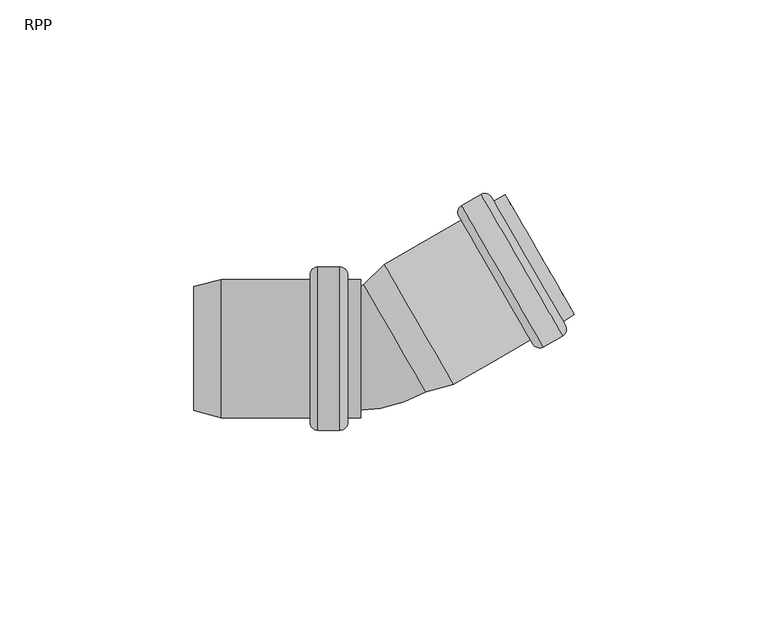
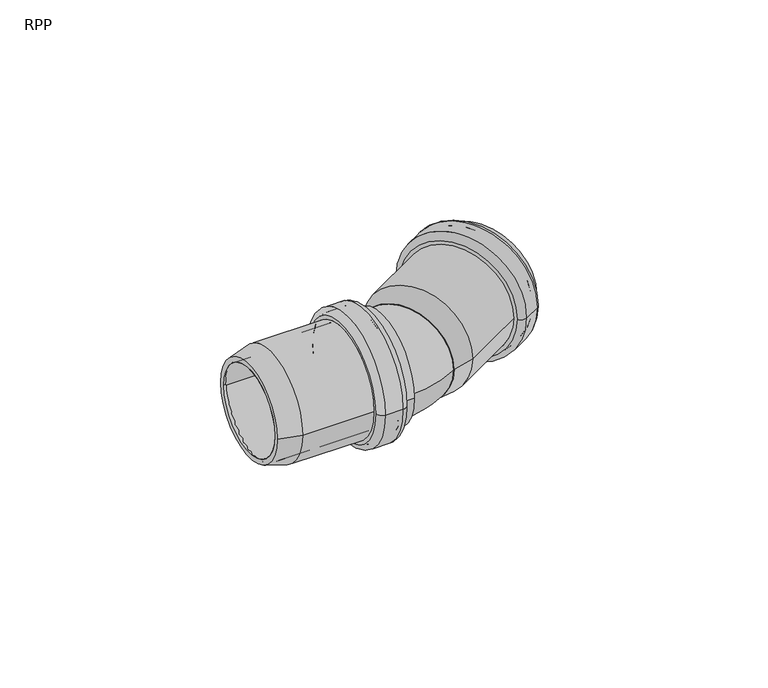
"""IFC4 building model written with IfcOpenShell, lengths in millimetres: pipe fitting geometry, RAUPIANO PLUS Bend : RPP."""

from ifc_helpers import new_model, si_unit, point, frame, origin, place, context, project, spatial, polyline, circle_curve, ellipse_curve, trimmed, source, transform, mapped, element, save
from ifc_brep_helpers import plane_surface, cylinder_surface, revolved_surface, advanced_brep


def rpp_2c8e5e39(model_context):
    return source(origin(), model_context, "Body", "AdvancedBrep", [
        advanced_brep(
        [(-15.6589838, -16.3, 0.0), (-15.6589838, 16.3, 0.0), (-40.0574433, 16.3, 0.0), (-40.0574433, -16.3, 0.0), (-15.1589838, -19.5, 0.0), (-15.1589838, 19.5, 0.0), (-15.6589838, 19.0, 0.0), (-15.6589838, -19.0, 0.0), (-9.6589838, -19.5, 0.0), (-9.6589838, 19.5, 0.0), (-9.1589838, -19.0, 0.0), (-9.1589838, 19.0, 0.0), (-4.1589838, -16.3, 0.0), (-4.1589838, 16.3, 0.0), (-9.1589838, 16.3, 0.0), (-9.1589838, -16.3, 0.0), (-7.5589838, -17.9, 0.0), (-7.5589838, 17.9, 0.0), (-4.1589838, 17.9, 0.0), (-4.1589838, -17.9, 0.0), (-9.5589838, -21.1, 0.0), (-9.5589838, 21.1, 0.0), (-7.5589838, 19.1, 0.0), (-7.5589838, -19.1, 0.0), (-15.2589838, -21.1, 0.0), (-15.2589838, 21.1, 0.0), (-17.2589838, -19.1, 0.0), (-17.2589838, 19.1, 0.0), (-40.2680873, -17.9, 0.0), (-40.2680873, 17.9, 0.0), (-17.2589838, 17.9, 0.0), (-17.2589838, -17.9, 0.0), (-47.3589838, -16.0, 0.0), (-47.3589838, 16.0, 0.0), (-47.3589838, 14.3435581, 0.0), (-47.3589838, -14.3435581, 0.0)],
        [
            (0, 1, circle_curve(frame((-15.6589838, 0.0, 0.0), z_axis=(1.0, 0.0, 0.0), x_axis=(0.0, 1.0, 0.0)), 16.3)),
            (1, 2),
            (2, 3, circle_curve(frame((-40.0574433, 0.0, 0.0), z_axis=(-1.0, 0.0, 0.0), x_axis=(0.0, 1.0, 0.0)), 16.3)),
            (3, 0),
            (4, 5, circle_curve(frame((-15.1589838, 0.0, 0.0), z_axis=(1.0, 0.0, 0.0), x_axis=(0.0, 1.0, 0.0)), 19.5)),
            (5, 6, circle_curve(frame((-15.1589838, 19.0, 0.0), z_axis=(0.0, 0.0, 1.0), x_axis=(0.0, -1.0, 0.0)), 0.5)),
            (6, 7, circle_curve(frame((-15.6589838, 0.0, 0.0), z_axis=(-1.0, 0.0, 0.0), x_axis=(0.0, 1.0, 0.0)), 19.0)),
            (7, 4, circle_curve(frame((-15.1589838, -19.0, 0.0), z_axis=(0.0, 0.0, 1.0), x_axis=(0.0, 1.0, 0.0)), 0.5)),
            (8, 9, circle_curve(frame((-9.6589838, 0.0, 0.0), z_axis=(1.0, 0.0, 0.0), x_axis=(0.0, 1.0, 0.0)), 19.5)),
            (9, 5),
            (4, 8),
            (10, 11, circle_curve(frame((-9.1589838, 0.0, 0.0), z_axis=(1.0, 0.0, 0.0), x_axis=(0.0, 1.0, 0.0)), 19.0)),
            (11, 9, circle_curve(frame((-9.6589838, 19.0, 0.0), z_axis=(0.0, 0.0, 1.0), x_axis=(0.0, -1.0, 0.0)), 0.5)),
            (8, 10, circle_curve(frame((-9.6589838, -19.0, 0.0), z_axis=(0.0, 0.0, 1.0), x_axis=(0.0, 1.0, 0.0)), 0.5)),
            (12, 13, circle_curve(frame((-4.1589838, 0.0, 0.0), z_axis=(1.0, 0.0, 0.0), x_axis=(0.0, 1.0, 0.0)), 16.3)),
            (13, 14),
            (14, 15, circle_curve(frame((-9.1589838, 0.0, 0.0), z_axis=(-1.0, 0.0, 0.0), x_axis=(0.0, 1.0, 0.0)), 16.3)),
            (15, 12),
            (16, 17, circle_curve(frame((-7.5589838, 0.0, 0.0), z_axis=(1.0, 0.0, 0.0), x_axis=(0.0, 1.0, 0.0)), 17.9)),
            (17, 18),
            (18, 19, circle_curve(frame((-4.1589838, 0.0, 0.0), z_axis=(-1.0, 0.0, 0.0), x_axis=(0.0, 1.0, 0.0)), 17.9)),
            (19, 16),
            (20, 21, circle_curve(frame((-9.5589838, 0.0, 0.0), z_axis=(1.0, 0.0, 0.0), x_axis=(0.0, 1.0, 0.0)), 21.1)),
            (21, 22, circle_curve(frame((-9.5589838, 19.1, 0.0), z_axis=(0.0, 0.0, -1.0), x_axis=(0.0, -1.0, 0.0)), 2.0)),
            (22, 23, circle_curve(frame((-7.5589838, 0.0, 0.0), z_axis=(-1.0, 0.0, 0.0), x_axis=(0.0, 1.0, 0.0)), 19.1)),
            (23, 20, circle_curve(frame((-9.5589838, -19.1, 0.0), z_axis=(0.0, 0.0, -1.0), x_axis=(0.0, 1.0, 0.0)), 2.0)),
            (24, 25, circle_curve(frame((-15.2589838, 0.0, 0.0), z_axis=(1.0, 0.0, 0.0), x_axis=(0.0, 1.0, 0.0)), 21.1)),
            (25, 21),
            (20, 24),
            (26, 27, circle_curve(frame((-17.2589838, 0.0, 0.0), z_axis=(1.0, 0.0, 0.0), x_axis=(0.0, 1.0, 0.0)), 19.1)),
            (27, 25, circle_curve(frame((-15.2589838, 19.1, 0.0), z_axis=(0.0, 0.0, -1.0), x_axis=(0.0, -1.0, 0.0)), 2.0)),
            (24, 26, circle_curve(frame((-15.2589838, -19.1, 0.0), z_axis=(0.0, 0.0, -1.0), x_axis=(0.0, 1.0, 0.0)), 2.0)),
            (28, 29, circle_curve(frame((-40.2680873, 0.0, 0.0), z_axis=(1.0, 0.0, 0.0), x_axis=(0.0, 1.0, 0.0)), 17.9)),
            (29, 30),
            (30, 31, circle_curve(frame((-17.2589838, 0.0, 0.0), z_axis=(-1.0, 0.0, 0.0), x_axis=(0.0, 1.0, 0.0)), 17.9)),
            (31, 28),
            (32, 33, circle_curve(frame((-47.3589838, 0.0, 0.0), z_axis=(1.0, 0.0, 0.0), x_axis=(0.0, 1.0, 0.0)), 16.0)),
            (33, 29),
            (28, 32),
            (2, 34),
            (34, 35, circle_curve(frame((-47.3589838, 0.0, 0.0), z_axis=(-1.0, 0.0, 0.0), x_axis=(0.0, 1.0, 0.0)), 14.3435581)),
            (35, 3),
            (1, 0, circle_curve(frame((-15.6589838, 0.0, 0.0), z_axis=(1.0, 0.0, 0.0), x_axis=(0.0, -1.0, 0.0)), 16.3)),
            (3, 2, circle_curve(frame((-40.0574433, 0.0, 0.0), z_axis=(-1.0, 0.0, 0.0), x_axis=(0.0, -1.0, 0.0)), 16.3)),
            (6, 7, circle_curve(frame((-15.6589838, 0.0, 0.0), z_axis=(1.0, 0.0, 0.0), x_axis=(0.0, -1.0, 0.0)), 19.0)),
            (5, 4, circle_curve(frame((-15.1589838, 0.0, 0.0), z_axis=(1.0, 0.0, 0.0), x_axis=(0.0, -1.0, 0.0)), 19.5)),
            (9, 8, circle_curve(frame((-9.6589838, 0.0, 0.0), z_axis=(1.0, 0.0, 0.0), x_axis=(0.0, -1.0, 0.0)), 19.5)),
            (11, 10, circle_curve(frame((-9.1589838, 0.0, 0.0), z_axis=(1.0, 0.0, 0.0), x_axis=(0.0, -1.0, 0.0)), 19.0)),
            (14, 15, circle_curve(frame((-9.1589838, 0.0, 0.0), z_axis=(1.0, 0.0, 0.0), x_axis=(0.0, -1.0, 0.0)), 16.3)),
            (13, 12, circle_curve(frame((-4.1589838, 0.0, 0.0), z_axis=(1.0, 0.0, 0.0), x_axis=(0.0, -1.0, 0.0)), 16.3)),
            (18, 19, circle_curve(frame((-4.1589838, 0.0, 0.0), z_axis=(1.0, 0.0, 0.0), x_axis=(0.0, -1.0, 0.0)), 17.9)),
            (17, 16, circle_curve(frame((-7.5589838, 0.0, 0.0), z_axis=(1.0, 0.0, 0.0), x_axis=(0.0, -1.0, 0.0)), 17.9)),
            (22, 23, circle_curve(frame((-7.5589838, 0.0, 0.0), z_axis=(1.0, 0.0, 0.0), x_axis=(0.0, -1.0, 0.0)), 19.1)),
            (21, 20, circle_curve(frame((-9.5589838, 0.0, 0.0), z_axis=(1.0, 0.0, 0.0), x_axis=(0.0, -1.0, 0.0)), 21.1)),
            (25, 24, circle_curve(frame((-15.2589838, 0.0, 0.0), z_axis=(1.0, 0.0, 0.0), x_axis=(0.0, -1.0, 0.0)), 21.1)),
            (27, 26, circle_curve(frame((-17.2589838, 0.0, 0.0), z_axis=(1.0, 0.0, 0.0), x_axis=(0.0, -1.0, 0.0)), 19.1)),
            (30, 31, circle_curve(frame((-17.2589838, 0.0, 0.0), z_axis=(1.0, 0.0, 0.0), x_axis=(0.0, -1.0, 0.0)), 17.9)),
            (29, 28, circle_curve(frame((-40.2680873, 0.0, 0.0), z_axis=(1.0, 0.0, 0.0), x_axis=(0.0, -1.0, 0.0)), 17.9)),
            (33, 32, circle_curve(frame((-47.3589838, 0.0, 0.0), z_axis=(1.0, 0.0, 0.0), x_axis=(0.0, -1.0, 0.0)), 16.0)),
            (34, 35, circle_curve(frame((-47.3589838, 0.0, 0.0), z_axis=(1.0, 0.0, 0.0), x_axis=(0.0, -1.0, 0.0)), 14.3435581)),
        ],
        [
            revolved_surface(polyline([(-40.0574433, 16.3, 0.0), (-15.658983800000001, 16.3, 0.0)]), (-47.3589838, 0.0, 0.0), (-1.0, 0.0, 0.0)),
            revolved_surface(trimmed(ellipse_curve(frame((-15.1589838, 19.0, 0.0), z_axis=(0.0, 0.0, -1.0), x_axis=(0.0, -1.0, 0.0)), 0.5, 0.5), [point((-15.6589838, 19.0, 0.0))], [point((-15.1589838, 19.5, 0.0))], True, "CARTESIAN"), (-47.3589838, 0.0, 0.0), (-1.0, 0.0, 0.0)),
            revolved_surface(polyline([(-15.158983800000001, 19.5, 0.0), (-9.658983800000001, 19.5, 0.0)]), (-47.3589838, 0.0, 0.0), (-1.0, 0.0, 0.0)),
            revolved_surface(trimmed(ellipse_curve(frame((-9.6589838, 19.0, 0.0), z_axis=(0.0, 0.0, -1.0), x_axis=(0.0, -1.0, 0.0)), 0.5, 0.5), [point((-9.6589838, 19.5, 0.0))], [point((-9.1589838, 19.0, 0.0))], True, "CARTESIAN"), (-47.3589838, 0.0, 0.0), (-1.0, 0.0, 0.0)),
            revolved_surface(polyline([(-9.158983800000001, 16.3, 0.0), (-4.1589838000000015, 16.3, 0.0)]), (-47.3589838, 0.0, 0.0), (-1.0, 0.0, 0.0)),
            cylinder_surface(frame((-47.3589838, 0.0, 0.0), z_axis=(-1.0, 0.0, 0.0), x_axis=(0.0, 1.0, 0.0)), 17.9),
            revolved_surface(trimmed(ellipse_curve(frame((-9.5589838, 19.1, 0.0), z_axis=(0.0, 0.0, 1.0), x_axis=(0.0, -1.0, 0.0)), 2.0, 2.0), [point((-7.5589838, 19.1, 0.0))], [point((-9.5589838, 21.1, 0.0))], True, "CARTESIAN"), (-47.3589838, 0.0, 0.0), (-1.0, 0.0, 0.0)),
            cylinder_surface(frame((-47.3589838, 0.0, 0.0), z_axis=(-1.0, 0.0, 0.0), x_axis=(0.0, 1.0, 0.0)), 21.1),
            revolved_surface(trimmed(ellipse_curve(frame((-15.2589838, 19.1, 0.0), z_axis=(0.0, 0.0, 1.0), x_axis=(0.0, -1.0, 0.0)), 2.0, 2.0), [point((-15.2589838, 21.1, 0.0))], [point((-17.2589838, 19.1, 0.0))], True, "CARTESIAN"), (-47.3589838, 0.0, 0.0), (-1.0, 0.0, 0.0)),
            revolved_surface(polyline([(-40.2680873, 17.9, 0.0), (-47.3589838, 16.0, 0.0)]), (-47.3589838, 0.0, 0.0), (-1.0, 0.0, 0.0)),
            revolved_surface(polyline([(-47.3589838, 14.3435581, 0.0), (-40.0574433, 16.3, 0.0)]), (-47.3589838, 0.0, 0.0), (-1.0, 0.0, 0.0)),
            revolved_surface(polyline([(-40.0574433, -16.3, 0.0), (-15.658983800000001, -16.3, 0.0)]), (-47.3589838, 0.0, 0.0), (-1.0, 0.0, 0.0)),
            plane_surface(frame((-15.6589838, 0.0, 0.0), z_axis=(1.0, 0.0, 0.0), x_axis=(0.0, -1.0, 0.0))),
            revolved_surface(trimmed(ellipse_curve(frame((-15.1589838, -19.0, 0.0), z_axis=(0.0, 0.0, 1.0), x_axis=(0.0, 1.0, 0.0)), 0.5, 0.5), [point((-15.6589838, -19.0, 0.0))], [point((-15.1589838, -19.5, 0.0))], True, "CARTESIAN"), (-47.3589838, 0.0, 0.0), (-1.0, 0.0, 0.0)),
            revolved_surface(polyline([(-15.158983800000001, -19.5, 0.0), (-9.658983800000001, -19.5, 0.0)]), (-47.3589838, 0.0, 0.0), (-1.0, 0.0, 0.0)),
            revolved_surface(trimmed(ellipse_curve(frame((-9.6589838, -19.0, 0.0), z_axis=(0.0, 0.0, 1.0), x_axis=(0.0, 1.0, 0.0)), 0.5, 0.5), [point((-9.6589838, -19.5, 0.0))], [point((-9.1589838, -19.0, 0.0))], True, "CARTESIAN"), (-47.3589838, 0.0, 0.0), (-1.0, 0.0, 0.0)),
            plane_surface(frame((-9.1589838, 0.0, 0.0), z_axis=(-1.0, 0.0, 0.0), x_axis=(0.0, -1.0, 0.0))),
            revolved_surface(polyline([(-9.158983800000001, -16.3, 0.0), (-4.1589838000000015, -16.3, 0.0)]), (-47.3589838, 0.0, 0.0), (-1.0, 0.0, 0.0)),
            plane_surface(frame((-4.1589838, 0.0, 0.0), z_axis=(1.0, 0.0, 0.0), x_axis=(0.0, -1.0, 0.0))),
            cylinder_surface(frame((-47.3589838, 0.0, 0.0), z_axis=(-1.0, 0.0, 0.0), x_axis=(0.0, -1.0, 0.0)), 17.9),
            plane_surface(frame((-7.5589838, 0.0, 0.0), z_axis=(1.0, 0.0, 0.0), x_axis=(0.0, -1.0, 0.0))),
            revolved_surface(trimmed(ellipse_curve(frame((-9.5589838, -19.1, 0.0), z_axis=(0.0, 0.0, -1.0), x_axis=(0.0, 1.0, 0.0)), 2.0, 2.0), [point((-7.5589838, -19.1, 0.0))], [point((-9.5589838, -21.1, 0.0))], True, "CARTESIAN"), (-47.3589838, 0.0, 0.0), (-1.0, 0.0, 0.0)),
            cylinder_surface(frame((-47.3589838, 0.0, 0.0), z_axis=(-1.0, 0.0, 0.0), x_axis=(0.0, -1.0, 0.0)), 21.1),
            revolved_surface(trimmed(ellipse_curve(frame((-15.2589838, -19.1, 0.0), z_axis=(0.0, 0.0, -1.0), x_axis=(0.0, 1.0, 0.0)), 2.0, 2.0), [point((-15.2589838, -21.1, 0.0))], [point((-17.2589838, -19.1, 0.0))], True, "CARTESIAN"), (-47.3589838, 0.0, 0.0), (-1.0, 0.0, 0.0)),
            plane_surface(frame((-17.2589838, 0.0, 0.0), z_axis=(-1.0, 0.0, 0.0), x_axis=(0.0, -1.0, 0.0))),
            revolved_surface(polyline([(-40.2680873, -17.9, 0.0), (-47.3589838, -16.0, 0.0)]), (-47.3589838, 0.0, 0.0), (-1.0, 0.0, 0.0)),
            plane_surface(frame((-47.3589838, 0.0, 0.0), z_axis=(-1.0, 0.0, 0.0), x_axis=(0.0, -1.0, 0.0))),
            revolved_surface(polyline([(-47.3589838, -14.3435581, 0.0), (-40.0574433, -16.3, 0.0)]), (-47.3589838, 0.0, 0.0), (-1.0, 0.0, 0.0)),
        ],
        [
            (0, [[1, 2, 3, 4]]),
            (1, [[5, 6, 7, 8]]),
            (2, [[9, 10, -5, 11]]),
            (3, [[12, 13, -9, 14]]),
            (4, [[15, 16, 17, 18]]),
            (5, [[19, 20, 21, 22]]),
            (6, [[23, 24, 25, 26]]),
            (7, [[27, 28, -23, 29]]),
            (8, [[30, 31, -27, 32]]),
            (5, [[33, 34, 35, 36]]),
            (9, [[37, 38, -33, 39]]),
            (10, [[-3, 40, 41, 42]]),
            (11, [[43, -4, 44, -2]]),
            (12, [[45, -7], [-43, -1]]),
            (13, [[46, -8, -45, -6]]),
            (14, [[47, -11, -46, -10]]),
            (15, [[48, -14, -47, -13]]),
            (16, [[-48, -12], [49, -17]]),
            (17, [[50, -18, -49, -16]]),
            (18, [[51, -21], [-50, -15]]),
            (19, [[52, -22, -51, -20]]),
            (20, [[53, -25], [-52, -19]]),
            (21, [[54, -26, -53, -24]]),
            (22, [[55, -29, -54, -28]]),
            (23, [[56, -32, -55, -31]]),
            (24, [[-56, -30], [57, -35]]),
            (19, [[58, -36, -57, -34]]),
            (25, [[59, -39, -58, -38]]),
            (26, [[-59, -37], [60, -41]]),
            (27, [[-44, -42, -60, -40]]),
        ],
    ),
        advanced_brep(
        [(11.8127952, -9.7423938, 0.0), (-2.5307629, 15.1013776, 0.0), (2.8143357, 20.4464763, 0.0), (19.1143357, -7.7859519, 0.0), (19.7319127, -9.2769145, 0.0), (1.8319127, 21.7267949, 0.0), (-3.3589838, 16.5358984, 0.0), (12.6410162, -11.1769145, 0.0), (39.6583808, 2.2276372, 0.0), (21.7583808, 33.2313467, 0.0), (47.9267764, 3.3063559, 0.0), (26.8267764, 39.8526279, 0.0), (21.8904316, 37.0026279, 0.0), (42.9904316, 0.4563559, 0.0), (51.0033136, 8.7776372, 0.0), (33.1033136, 39.7813467, 0.0), (30.1588272, 38.0813467, 0.0), (48.0588272, 7.0776372, 0.0), (45.8731866, 7.6632778, 0.0), (29.5731866, 35.895706, 0.0), (33.9033136, 38.395706, 0.0), (50.2033136, 10.1632778, 0.0), (42.2770342, 1.8919966, 0.0), (22.7770342, 35.6669873, 0.0), (27.5401739, 38.4169873, 0.0), (47.0401739, 4.6419966, 0.0), (23.9440215, 32.645706, 0.0), (40.2440215, 4.4132778, 0.0), (21.1583808, 34.2705771, 0.0), (40.2583808, 1.1884067, 0.0), (48.6588272, 6.0384067, 0.0), (29.5588272, 39.1205771, 0.0), (28.2231866, 38.2339746, 0.0), (47.2231866, 5.3250093, 0.0), (41.5940215, 2.0750093, 0.0), (22.5940215, 34.9839746, 0.0)],
        [
            (0, 1, circle_curve(frame((4.6410162, 2.6794919, 0.0), z_axis=(-0.8660254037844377, -0.5000000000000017, 0.0), x_axis=(-0.5000000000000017, 0.8660254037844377, 0.0)), 14.3435581)),
            (1, 2),
            (2, 3, circle_curve(frame((10.9643357, 6.3302622, 0.0), z_axis=(0.8660254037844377, 0.5000000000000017, 0.0), x_axis=(-0.5000000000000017, 0.8660254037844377, 0.0)), 16.3)),
            (3, 0),
            (4, 5, circle_curve(frame((10.7819127, 6.2249402, 0.0), z_axis=(-0.8660254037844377, -0.5000000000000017, 0.0), x_axis=(-0.5000000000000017, 0.8660254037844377, 0.0)), 17.9)),
            (5, 6),
            (6, 7, circle_curve(frame((4.6410162, 2.6794919, 0.0), z_axis=(0.8660254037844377, 0.5000000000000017, 0.0), x_axis=(-0.5000000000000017, 0.8660254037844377, 0.0)), 16.0)),
            (7, 4),
            (8, 9, circle_curve(frame((30.7083808, 17.7294919, 0.0), z_axis=(-0.8660254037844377, -0.5000000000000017, 0.0), x_axis=(-0.5000000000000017, 0.8660254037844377, 0.0)), 17.9)),
            (9, 5),
            (4, 8),
            (10, 11, circle_curve(frame((37.3767764, 21.5794919, 0.0), z_axis=(-0.8660254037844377, -0.5000000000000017, 0.0), x_axis=(-0.5000000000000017, 0.8660254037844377, 0.0)), 21.1)),
            (11, 12),
            (12, 13, circle_curve(frame((32.4404316, 18.7294919, 0.0), z_axis=(0.8660254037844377, 0.5000000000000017, 0.0), x_axis=(-0.5000000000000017, 0.8660254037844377, 0.0)), 21.1)),
            (13, 10),
            (14, 15, circle_curve(frame((42.0533136, 24.2794919, 0.0), z_axis=(-0.8660254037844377, -0.5000000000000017, 0.0), x_axis=(-0.5000000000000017, 0.8660254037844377, 0.0)), 17.9)),
            (15, 16),
            (16, 17, circle_curve(frame((39.1088272, 22.5794919, 0.0), z_axis=(0.8660254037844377, 0.5000000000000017, 0.0), x_axis=(-0.5000000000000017, 0.8660254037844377, 0.0)), 17.9)),
            (17, 14),
            (18, 19, circle_curve(frame((37.7231866, 21.7794919, 0.0), z_axis=(-0.8660254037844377, -0.5000000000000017, 0.0), x_axis=(-0.5000000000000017, 0.8660254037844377, 0.0)), 16.3)),
            (19, 20),
            (20, 21, circle_curve(frame((42.0533136, 24.2794919, 0.0), z_axis=(0.8660254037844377, 0.5000000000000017, 0.0), x_axis=(-0.5000000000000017, 0.8660254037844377, 0.0)), 16.3)),
            (21, 18),
            (22, 23, circle_curve(frame((32.5270342, 18.7794919, 0.0), z_axis=(-0.8660254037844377, -0.5000000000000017, 0.0), x_axis=(-0.5000000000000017, 0.8660254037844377, 0.0)), 19.5)),
            (23, 24),
            (24, 25, circle_curve(frame((37.2901739, 21.5294919, 0.0), z_axis=(0.8660254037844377, 0.5000000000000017, 0.0), x_axis=(-0.5000000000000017, 0.8660254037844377, 0.0)), 19.5)),
            (25, 22),
            (2, 26),
            (26, 27, circle_curve(frame((32.0940215, 18.5294919, 0.0), z_axis=(0.8660254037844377, 0.5000000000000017, 0.0), x_axis=(-0.5000000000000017, 0.8660254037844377, 0.0)), 16.3)),
            (27, 3),
            (1, 0, circle_curve(frame((4.6410162, 2.6794919, 0.0), z_axis=(-0.8660254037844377, -0.5000000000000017, 0.0), x_axis=(0.5000000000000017, -0.8660254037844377, 0.0)), 14.3435581)),
            (3, 2, circle_curve(frame((10.9643357, 6.3302622, 0.0), z_axis=(0.8660254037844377, 0.5000000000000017, 0.0), x_axis=(0.5000000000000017, -0.8660254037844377, 0.0)), 16.3)),
            (6, 7, circle_curve(frame((4.6410162, 2.6794919, 0.0), z_axis=(-0.8660254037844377, -0.5000000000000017, 0.0), x_axis=(0.5000000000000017, -0.8660254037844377, 0.0)), 16.0)),
            (5, 4, circle_curve(frame((10.7819127, 6.2249402, 0.0), z_axis=(-0.8660254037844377, -0.5000000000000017, 0.0), x_axis=(0.5000000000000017, -0.8660254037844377, 0.0)), 17.9)),
            (9, 8, circle_curve(frame((30.7083808, 17.7294919, 0.0), z_axis=(-0.8660254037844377, -0.5000000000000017, 0.0), x_axis=(0.5000000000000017, -0.8660254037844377, 0.0)), 17.9)),
            (28, 29, circle_curve(frame((30.7083808, 17.7294919, 0.0), z_axis=(-0.8660254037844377, -0.5000000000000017, 0.0), x_axis=(0.5000000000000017, -0.8660254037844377, 0.0)), 19.1)),
            (29, 28, circle_curve(frame((30.7083808, 17.7294919, 0.0), z_axis=(-0.8660254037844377, -0.5000000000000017, 0.0), x_axis=(-0.5000000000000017, 0.8660254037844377, 0.0)), 19.1)),
            (11, 10, circle_curve(frame((37.3767764, 21.5794919, 0.0), z_axis=(-0.8660254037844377, -0.5000000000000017, 0.0), x_axis=(0.5000000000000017, -0.8660254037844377, 0.0)), 21.1)),
            (13, 12, circle_curve(frame((32.4404316, 18.7294919, 0.0), z_axis=(0.8660254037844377, 0.5000000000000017, 0.0), x_axis=(0.5000000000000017, -0.8660254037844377, 0.0)), 21.1)),
            (30, 31, circle_curve(frame((39.1088272, 22.5794919, 0.0), z_axis=(0.8660254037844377, 0.5000000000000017, 0.0), x_axis=(0.5000000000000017, -0.8660254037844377, 0.0)), 19.1)),
            (31, 30, circle_curve(frame((39.1088272, 22.5794919, 0.0), z_axis=(0.8660254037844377, 0.5000000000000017, 0.0), x_axis=(-0.5000000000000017, 0.8660254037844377, 0.0)), 19.1)),
            (16, 17, circle_curve(frame((39.1088272, 22.5794919, 0.0), z_axis=(-0.8660254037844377, -0.5000000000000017, 0.0), x_axis=(0.5000000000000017, -0.8660254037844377, 0.0)), 17.9)),
            (15, 14, circle_curve(frame((42.0533136, 24.2794919, 0.0), z_axis=(-0.8660254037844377, -0.5000000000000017, 0.0), x_axis=(0.5000000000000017, -0.8660254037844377, 0.0)), 17.9)),
            (20, 21, circle_curve(frame((42.0533136, 24.2794919, 0.0), z_axis=(-0.8660254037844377, -0.5000000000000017, 0.0), x_axis=(0.5000000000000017, -0.8660254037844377, 0.0)), 16.3)),
            (19, 18, circle_curve(frame((37.7231866, 21.7794919, 0.0), z_axis=(-0.8660254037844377, -0.5000000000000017, 0.0), x_axis=(0.5000000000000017, -0.8660254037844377, 0.0)), 16.3)),
            (32, 33, circle_curve(frame((37.7231866, 21.7794919, 0.0), z_axis=(-0.8660254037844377, -0.5000000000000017, 0.0), x_axis=(0.5000000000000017, -0.8660254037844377, 0.0)), 19.0)),
            (33, 32, circle_curve(frame((37.7231866, 21.7794919, 0.0), z_axis=(-0.8660254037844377, -0.5000000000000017, 0.0), x_axis=(-0.5000000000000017, 0.8660254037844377, 0.0)), 19.0)),
            (23, 22, circle_curve(frame((32.5270342, 18.7794919, 0.0), z_axis=(-0.8660254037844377, -0.5000000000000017, 0.0), x_axis=(0.5000000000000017, -0.8660254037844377, 0.0)), 19.5)),
            (25, 24, circle_curve(frame((37.2901739, 21.5294919, 0.0), z_axis=(0.8660254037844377, 0.5000000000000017, 0.0), x_axis=(0.5000000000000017, -0.8660254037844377, 0.0)), 19.5)),
            (34, 35, circle_curve(frame((32.0940215, 18.5294919, 0.0), z_axis=(0.8660254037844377, 0.5000000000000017, 0.0), x_axis=(0.5000000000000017, -0.8660254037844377, 0.0)), 19.0)),
            (35, 34, circle_curve(frame((32.0940215, 18.5294919, 0.0), z_axis=(0.8660254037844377, 0.5000000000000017, 0.0), x_axis=(-0.5000000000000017, 0.8660254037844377, 0.0)), 19.0)),
            (26, 27, circle_curve(frame((32.0940215, 18.5294919, 0.0), z_axis=(-0.8660254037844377, -0.5000000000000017, 0.0), x_axis=(0.5000000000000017, -0.8660254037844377, 0.0)), 16.3)),
            (12, 28, circle_curve(frame((22.8904316, 35.2705771, 0.0), z_axis=(0.0, 0.0, 1.0), x_axis=(0.5000000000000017, -0.8660254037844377, 0.0)), 2.0)),
            (29, 13, circle_curve(frame((41.9904316, 2.1884067, 0.0), z_axis=(0.0, 0.0, 1.0), x_axis=(-0.5000000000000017, 0.8660254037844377, 0.0)), 2.0)),
            (31, 11, circle_curve(frame((27.8267764, 38.1205771, 0.0), z_axis=(0.0, 0.0, 1.0), x_axis=(0.5000000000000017, -0.8660254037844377, 0.0)), 2.0)),
            (10, 30, circle_curve(frame((46.9267764, 5.0384067, 0.0), z_axis=(0.0, 0.0, 1.0), x_axis=(-0.5000000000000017, 0.8660254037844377, 0.0)), 2.0)),
            (24, 32, circle_curve(frame((27.7901739, 37.9839746, 0.0), z_axis=(0.0, 0.0, -1.0), x_axis=(0.5000000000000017, -0.8660254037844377, 0.0)), 0.5)),
            (33, 25, circle_curve(frame((46.7901739, 5.0750093, 0.0), z_axis=(0.0, 0.0, -1.0), x_axis=(-0.5000000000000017, 0.8660254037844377, 0.0)), 0.5)),
            (35, 23, circle_curve(frame((23.0270342, 35.2339746, 0.0), z_axis=(0.0, 0.0, -1.0), x_axis=(0.5000000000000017, -0.8660254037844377, 0.0)), 0.5)),
            (22, 34, circle_curve(frame((42.0270342, 2.3250093, 0.0), z_axis=(0.0, 0.0, -1.0), x_axis=(-0.5000000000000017, 0.8660254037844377, 0.0)), 0.5)),
        ],
        [
            revolved_surface(polyline([(2.8143357, 20.4464763, 0.0), (-2.5307629, 15.1013776, 0.0)]), (4.6410162, 2.6794919, 0.0), (0.8660254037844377, 0.5000000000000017, 0.0)),
            revolved_surface(polyline([(-3.3589838, 16.5358984, 0.0), (1.8319127, 21.7267949, 0.0)]), (4.6410162, 2.6794919, 0.0), (0.8660254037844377, 0.5000000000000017, 0.0)),
            cylinder_surface(frame((4.6410162, 2.6794919, 0.0), z_axis=(0.8660254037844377, 0.5000000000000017, 0.0), x_axis=(-0.5000000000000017, 0.8660254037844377, 0.0)), 17.9),
            cylinder_surface(frame((4.6410162, 2.6794919, 0.0), z_axis=(0.8660254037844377, 0.5000000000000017, 0.0), x_axis=(-0.5000000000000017, 0.8660254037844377, 0.0)), 21.1),
            revolved_surface(polyline([(33.90331361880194, 38.39570596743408, 0.0), (29.573186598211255, 35.89570596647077, 0.0)]), (4.6410162, 2.6794919, 0.0), (0.8660254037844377, 0.5000000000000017, 0.0)),
            revolved_surface(polyline([(27.54017393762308, 38.416987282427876, 0.0), (22.77703420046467, 35.66698727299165, 0.0)]), (4.6410162, 2.6794919, 0.0), (0.8660254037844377, 0.5000000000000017, 0.0)),
            revolved_surface(polyline([(23.94402150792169, 32.64570598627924, 0.0), (2.8143357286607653, 20.446476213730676, 0.0)]), (4.6410162, 2.6794919, 0.0), (0.8660254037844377, 0.5000000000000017, 0.0)),
            revolved_surface(polyline([(19.1143357, -7.7859519, 0.0), (11.8127952, -9.7423938, 0.0)]), (4.6410162, 2.6794919, 0.0), (0.8660254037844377, 0.5000000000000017, 0.0)),
            plane_surface(frame((4.6410162, 2.6794919, 0.0), z_axis=(-0.8660254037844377, -0.5000000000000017, 0.0), x_axis=(0.5000000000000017, -0.8660254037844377, 0.0))),
            revolved_surface(polyline([(12.6410162, -11.1769145, 0.0), (19.7319127, -9.2769145, 0.0)]), (4.6410162, 2.6794919, 0.0), (0.8660254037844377, 0.5000000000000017, 0.0)),
            cylinder_surface(frame((4.6410162, 2.6794919, 0.0), z_axis=(0.8660254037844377, 0.5000000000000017, 0.0), x_axis=(0.5000000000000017, -0.8660254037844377, 0.0)), 17.9),
            plane_surface(frame((30.7083808, 17.7294919, 0.0), z_axis=(-0.8660254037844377, -0.5000000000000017, 0.0), x_axis=(0.5000000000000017, -0.8660254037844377, 0.0))),
            cylinder_surface(frame((4.6410162, 2.6794919, 0.0), z_axis=(0.8660254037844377, 0.5000000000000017, 0.0), x_axis=(0.5000000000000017, -0.8660254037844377, 0.0)), 21.1),
            plane_surface(frame((39.1088272, 22.5794919, 0.0), z_axis=(0.8660254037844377, 0.5000000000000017, 0.0), x_axis=(0.5000000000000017, -0.8660254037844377, 0.0))),
            plane_surface(frame((42.0533136, 24.2794919, 0.0), z_axis=(0.8660254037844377, 0.5000000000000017, 0.0), x_axis=(0.5000000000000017, -0.8660254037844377, 0.0))),
            revolved_surface(polyline([(50.203313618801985, 10.163277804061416, 0.0), (45.873186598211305, 7.663277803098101, 0.0)]), (4.6410162, 2.6794919, 0.0), (0.8660254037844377, 0.5000000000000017, 0.0)),
            plane_surface(frame((37.7231866, 21.7794919, 0.0), z_axis=(-0.8660254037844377, -0.5000000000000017, 0.0), x_axis=(0.5000000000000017, -0.8660254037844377, 0.0))),
            revolved_surface(polyline([(47.040173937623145, 4.641996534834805, 0.0), (42.27703420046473, 1.8919965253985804, 0.0)]), (4.6410162, 2.6794919, 0.0), (0.8660254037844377, 0.5000000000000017, 0.0)),
            plane_surface(frame((32.0940215, 18.5294919, 0.0), z_axis=(0.8660254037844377, 0.5000000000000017, 0.0), x_axis=(0.5000000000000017, -0.8660254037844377, 0.0))),
            revolved_surface(polyline([(40.244021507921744, 4.413277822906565, 0.0), (19.11433572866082, -7.785951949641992, 0.0)]), (4.6410162, 2.6794919, 0.0), (0.8660254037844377, 0.5000000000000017, 0.0)),
            revolved_surface(trimmed(ellipse_curve(frame((22.8904316, 35.2705771, 0.0), z_axis=(0.0, 0.0, -1.0), x_axis=(0.5000000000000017, -0.8660254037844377, 0.0)), 2.0, 2.0), [point((21.1583808, 34.2705771, 0.0))], [point((21.8904316, 37.0026279, 0.0))], True, "CARTESIAN"), (4.6410162, 2.6794919, 0.0), (0.8660254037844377, 0.5000000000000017, 0.0)),
            revolved_surface(trimmed(ellipse_curve(frame((27.8267764, 38.1205771, 0.0), z_axis=(0.0, 0.0, -1.0), x_axis=(0.5000000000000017, -0.8660254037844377, 0.0)), 2.0, 2.0), [point((26.8267764, 39.8526279, 0.0))], [point((29.5588272, 39.1205771, 0.0))], True, "CARTESIAN"), (4.6410162, 2.6794919, 0.0), (0.8660254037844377, 0.5000000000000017, 0.0)),
            revolved_surface(trimmed(ellipse_curve(frame((27.7901739, 37.9839746, 0.0), z_axis=(0.0, 0.0, 1.0), x_axis=(0.5000000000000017, -0.8660254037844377, 0.0)), 0.5, 0.5), [point((28.2231866, 38.2339746, 0.0))], [point((27.5401739, 38.4169873, 0.0))], True, "CARTESIAN"), (4.6410162, 2.6794919, 0.0), (0.8660254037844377, 0.5000000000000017, 0.0)),
            revolved_surface(trimmed(ellipse_curve(frame((23.0270342, 35.2339746, 0.0), z_axis=(0.0, 0.0, 1.0), x_axis=(0.5000000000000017, -0.8660254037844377, 0.0)), 0.5, 0.5), [point((22.7770342, 35.6669873, 0.0))], [point((22.5940215, 34.9839746, 0.0))], True, "CARTESIAN"), (4.6410162, 2.6794919, 0.0), (0.8660254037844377, 0.5000000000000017, 0.0)),
            revolved_surface(trimmed(ellipse_curve(frame((41.9904316, 2.1884067, 0.0), z_axis=(0.0, 0.0, 1.0), x_axis=(-0.5000000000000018, 0.8660254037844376, 0.0)), 2.0, 2.0), [point((40.2583808, 1.1884067, 0.0))], [point((42.9904316, 0.4563559, 0.0))], True, "CARTESIAN"), (4.6410162, 2.6794919, 0.0), (0.8660254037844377, 0.5000000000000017, 0.0)),
            revolved_surface(trimmed(ellipse_curve(frame((46.9267764, 5.0384067, 0.0), z_axis=(0.0, 0.0, 1.0), x_axis=(-0.5000000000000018, 0.8660254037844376, 0.0)), 2.0, 2.0), [point((47.9267764, 3.3063559, 0.0))], [point((48.6588272, 6.0384067, 0.0))], True, "CARTESIAN"), (4.6410162, 2.6794919, 0.0), (0.8660254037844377, 0.5000000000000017, 0.0)),
            revolved_surface(trimmed(ellipse_curve(frame((46.7901739, 5.0750093, 0.0), z_axis=(0.0, 0.0, -1.0), x_axis=(-0.5000000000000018, 0.8660254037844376, 0.0)), 0.5, 0.5), [point((47.2231866, 5.3250093, 0.0))], [point((47.0401739, 4.6419966, 0.0))], True, "CARTESIAN"), (4.6410162, 2.6794919, 0.0), (0.8660254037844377, 0.5000000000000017, 0.0)),
            revolved_surface(trimmed(ellipse_curve(frame((42.0270342, 2.3250093, 0.0), z_axis=(0.0, 0.0, -1.0), x_axis=(-0.5000000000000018, 0.8660254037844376, 0.0)), 0.5, 0.5), [point((42.2770342, 1.8919966, 0.0))], [point((41.5940215, 2.0750093, 0.0))], True, "CARTESIAN"), (4.6410162, 2.6794919, 0.0), (0.8660254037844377, 0.5000000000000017, 0.0)),
        ],
        [
            (0, [[1, 2, 3, 4]]),
            (1, [[5, 6, 7, 8]]),
            (2, [[9, 10, -5, 11]]),
            (3, [[12, 13, 14, 15]]),
            (2, [[16, 17, 18, 19]]),
            (4, [[20, 21, 22, 23]]),
            (5, [[24, 25, 26, 27]]),
            (6, [[-3, 28, 29, 30]]),
            (7, [[31, -4, 32, -2]]),
            (8, [[33, -7], [-31, -1]]),
            (9, [[34, -8, -33, -6]]),
            (10, [[35, -11, -34, -10]]),
            (11, [[36, 37], [-35, -9]]),
            (12, [[38, -15, 39, -13]]),
            (13, [[40, 41], [42, -18]]),
            (10, [[43, -19, -42, -17]]),
            (14, [[-43, -16], [44, -22]]),
            (15, [[45, -23, -44, -21]]),
            (16, [[46, 47], [-45, -20]]),
            (17, [[48, -27, 49, -25]]),
            (18, [[50, 51], [52, -29]]),
            (19, [[-32, -30, -52, -28]]),
            (20, [[-14, 53, -37, 54]]),
            (21, [[-41, 55, -12, 56]]),
            (22, [[-26, 57, -47, 58]]),
            (23, [[-51, 59, -24, 60]]),
            (24, [[-39, -54, -36, -53]]),
            (25, [[-40, -56, -38, -55]]),
            (26, [[-49, -58, -46, -57]]),
            (27, [[-50, -60, -48, -59]]),
        ],
    ),
        advanced_brep(
        [(-5.3589838, 14.2, 0.0), (-5.3589838, -14.2, 0.0), (-47.3589838, -14.2, 0.0), (-47.3589838, 14.2, 0.0), (-43.626933, 16.0, 0.0), (-43.626933, -16.0, 0.0), (-5.3589838, -16.0, 0.0), (-5.3589838, 16.0, 0.0), (-47.3589838, 15.0, 0.0), (-47.3589838, -15.0, 0.0)],
        [
            (0, 1, circle_curve(frame((-5.3589838, 0.0, 0.0), z_axis=(1.0, 0.0, 0.0), x_axis=(0.0, -1.0, 0.0)), 14.2)),
            (1, 2),
            (2, 3, circle_curve(frame((-47.3589838, 0.0, 0.0), z_axis=(-1.0, 0.0, 0.0), x_axis=(0.0, -1.0, 0.0)), 14.2)),
            (3, 0),
            (4, 5, circle_curve(frame((-43.626933, 0.0, 0.0), z_axis=(1.0, 0.0, 0.0), x_axis=(0.0, -1.0, 0.0)), 16.0)),
            (5, 6),
            (6, 7, circle_curve(frame((-5.3589838, 0.0, 0.0), z_axis=(-1.0, 0.0, 0.0), x_axis=(0.0, -1.0, 0.0)), 16.0)),
            (7, 4),
            (8, 9, circle_curve(frame((-47.3589838, 0.0, 0.0), z_axis=(1.0, 0.0, 0.0), x_axis=(0.0, -1.0, 0.0)), 15.0)),
            (9, 5),
            (4, 8),
            (1, 0, circle_curve(frame((-5.3589838, 0.0, 0.0), z_axis=(1.0, 0.0, 0.0), x_axis=(0.0, 1.0, 0.0)), 14.2)),
            (3, 2, circle_curve(frame((-47.3589838, 0.0, 0.0), z_axis=(-1.0, 0.0, 0.0), x_axis=(0.0, 1.0, 0.0)), 14.2)),
            (6, 7, circle_curve(frame((-5.3589838, 0.0, 0.0), z_axis=(1.0, 0.0, 0.0), x_axis=(0.0, 1.0, 0.0)), 16.0)),
            (5, 4, circle_curve(frame((-43.626933, 0.0, 0.0), z_axis=(1.0, 0.0, 0.0), x_axis=(0.0, 1.0, 0.0)), 16.0)),
            (9, 8, circle_curve(frame((-47.3589838, 0.0, 0.0), z_axis=(1.0, 0.0, 0.0), x_axis=(0.0, 1.0, 0.0)), 15.0)),
        ],
        [
            revolved_surface(polyline([(-47.3589838, -14.2, 0.0), (-5.3589838, -14.2, 0.0)]), (-5.3589838, 0.0, 0.0), (-1.0, 0.0, 0.0)),
            cylinder_surface(frame((-5.3589838, 0.0, 0.0), z_axis=(-1.0, 0.0, 0.0), x_axis=(0.0, -1.0, 0.0)), 16.0),
            revolved_surface(polyline([(-43.626933, -16.0, 0.0), (-47.3589838, -15.0, 0.0)]), (-5.3589838, 0.0, 0.0), (-1.0, 0.0, 0.0)),
            revolved_surface(polyline([(-47.3589838, 14.2, 0.0), (-5.3589838, 14.2, 0.0)]), (-5.3589838, 0.0, 0.0), (-1.0, 0.0, 0.0)),
            plane_surface(frame((-5.3589838, 0.0, 0.0), z_axis=(1.0, 0.0, 0.0), x_axis=(0.0, 1.0, 0.0))),
            cylinder_surface(frame((-5.3589838, 0.0, 0.0), z_axis=(-1.0, 0.0, 0.0), x_axis=(0.0, 1.0, 0.0)), 16.0),
            revolved_surface(polyline([(-43.626933, 16.0, 0.0), (-47.3589838, 15.0, 0.0)]), (-5.3589838, 0.0, 0.0), (-1.0, 0.0, 0.0)),
            plane_surface(frame((-47.3589838, 0.0, 0.0), z_axis=(-1.0, 0.0, 0.0), x_axis=(0.0, 1.0, 0.0))),
        ],
        [
            (0, [[1, 2, 3, 4]]),
            (1, [[5, 6, 7, 8]]),
            (2, [[9, 10, -5, 11]]),
            (3, [[12, -4, 13, -2]]),
            (4, [[14, -7], [-12, -1]]),
            (5, [[15, -8, -14, -6]]),
            (6, [[16, -11, -15, -10]]),
            (7, [[-16, -9], [-13, -3]]),
        ],
    ),
        advanced_brep(
        [(-5.3589838, -16.0, 0.0), (-5.3589838, 16.0, 0.0), (-5.3589838, -14.2, 0.0), (-5.3589838, 14.2, 0.0), (12.6410162, -11.1769145, 0.0), (-3.3589838, 16.5358984, 0.0), (11.7410162, -9.6180688, 0.0), (-2.4589838, 14.9770527, 0.0)],
        [
            (0, 1, circle_curve(frame((-5.3589838, 0.0, 0.0), z_axis=(-1.0, 0.0, 0.0), x_axis=(0.0, 1.0, 0.0)), 16.0)),
            (1, 0, circle_curve(frame((-5.3589838, 0.0, 0.0), z_axis=(-1.0, 0.0, 0.0), x_axis=(0.0, 1.0, 0.0)), 16.0)),
            (2, 3, circle_curve(frame((-5.3589838, 0.0, 0.0), z_axis=(1.0, 0.0, 0.0), x_axis=(0.0, 1.0, 0.0)), 14.2)),
            (3, 2, circle_curve(frame((-5.3589838, 0.0, 0.0), z_axis=(1.0, 0.0, 0.0), x_axis=(0.0, 1.0, 0.0)), 14.2)),
            (4, 5, circle_curve(frame((4.6410162, 2.6794919, 0.0), z_axis=(0.8660254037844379, 0.5000000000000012, 0.0), x_axis=(-0.5000000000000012, 0.8660254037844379, 0.0)), 16.0)),
            (5, 4, circle_curve(frame((4.6410162, 2.6794919, 0.0), z_axis=(0.8660254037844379, 0.5000000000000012, 0.0), x_axis=(-0.5000000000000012, 0.8660254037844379, 0.0)), 16.0)),
            (6, 7, circle_curve(frame((4.6410162, 2.6794919, 0.0), z_axis=(-0.8660254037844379, -0.5000000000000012, 0.0), x_axis=(-0.5000000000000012, 0.8660254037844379, 0.0)), 14.2)),
            (7, 6, circle_curve(frame((4.6410162, 2.6794919, 0.0), z_axis=(-0.8660254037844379, -0.5000000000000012, 0.0), x_axis=(-0.5000000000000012, 0.8660254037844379, 0.0)), 14.2)),
            (7, 3, circle_curve(frame((-5.3589838, 20.0, 0.0), z_axis=(0.0, 0.0, -1.0), x_axis=(0.0, -1.0, 0.0)), 5.8)),
            (2, 6, circle_curve(frame((-5.3589838, 20.0, 0.0), z_axis=(0.0, 0.0, 1.0), x_axis=(0.0, -1.0, 0.0)), 34.2)),
            (5, 1, circle_curve(frame((-5.3589838, 20.0, 0.0), z_axis=(0.0, 0.0, -1.0), x_axis=(0.0, -1.0, 0.0)), 4.0)),
            (0, 4, circle_curve(frame((-5.3589838, 20.0, 0.0), z_axis=(0.0, 0.0, 1.0), x_axis=(0.0, -1.0, 0.0)), 36.0)),
        ],
        [
            plane_surface(frame((-5.3589838, 0.0, 0.0), z_axis=(-1.0, 0.0, 0.0), x_axis=(0.0, 0.0, 1.0))),
            plane_surface(frame((4.6410162, 2.6794919, 0.0), z_axis=(0.866025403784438, 0.5000000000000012, 0.0), x_axis=(0.0, 0.0, 1.0))),
            revolved_surface(trimmed(ellipse_curve(frame((-5.3589838, 0.0, 0.0), z_axis=(1.0, 0.0, 0.0), x_axis=(0.0, 1.0, 0.0)), 14.2, 14.2), [point((-5.3589838, -14.2, 0.0))], [point((-5.3589838, 14.2, 0.0))], True, "CARTESIAN"), (-5.3589838, 20.0, 0.0), (0.0, 0.0, 1.0)),
            revolved_surface(trimmed(ellipse_curve(frame((-5.3589838, 0.0, 0.0), z_axis=(1.0, 0.0, 0.0), x_axis=(0.0, 1.0, 0.0)), 14.2, 14.2), [point((-5.3589838, 14.2, 0.0))], [point((-5.3589838, -14.2, 0.0))], True, "CARTESIAN"), (-5.3589838, 20.0, 0.0), (0.0, 0.0, 1.0)),
            revolved_surface(trimmed(ellipse_curve(frame((-5.3589838, 0.0, 0.0), z_axis=(-1.0, 0.0, 0.0), x_axis=(0.0, 1.0, 0.0)), 16.0, 16.0), [point((-5.3589838, -16.0, 0.0))], [point((-5.3589838, 16.0, 0.0))], True, "CARTESIAN"), (-5.3589838, 20.0, 0.0), (0.0, 0.0, 1.0)),
            revolved_surface(trimmed(ellipse_curve(frame((-5.3589838, 0.0, 0.0), z_axis=(-1.0, 0.0, 0.0), x_axis=(0.0, 1.0, 0.0)), 16.0, 16.0), [point((-5.3589838, 16.0, 0.0))], [point((-5.3589838, -16.0, 0.0))], True, "CARTESIAN"), (-5.3589838, 20.0, 0.0), (0.0, 0.0, 1.0)),
        ],
        [
            (0, [[1, 2], [3, 4]]),
            (1, [[5, 6], [7, 8]]),
            (2, [[9, -3, 10, -8]]),
            (3, [[-10, -4, -9, -7]]),
            (4, [[11, -1, 12, -6]]),
            (5, [[-12, -2, -11, -5]]),
        ],
    ),
    ])


if __name__ == "__main__":
    model = new_model("IFC4")
    model_context = context("Model", 3, world=origin())
    ifc_project = project(units=[si_unit("LENGTHUNIT", "METRE", prefix="MILLI")], contexts=[model_context])
    site = spatial("IfcSite", under=ifc_project)
    building = spatial("IfcBuilding", under=site)
    placement = place(None, origin())
    rpp_shape = rpp_2c8e5e39(model_context)
    element("IfcPipeFitting", 1, ObjectType="RAUPIANO PLUS Bend : RPP", at=placement, inside=building, context=model_context, shape_type="MappedRepresentation", body=[
        mapped(rpp_shape, transform((0.0, 0.0, 0.0), x_axis=(1.0, 0.0, 0.0), y_axis=(0.0, 1.0, 0.0), z_axis=(0.0, 0.0, 1.0))),
    ])
    save(model, "model.ifc")
